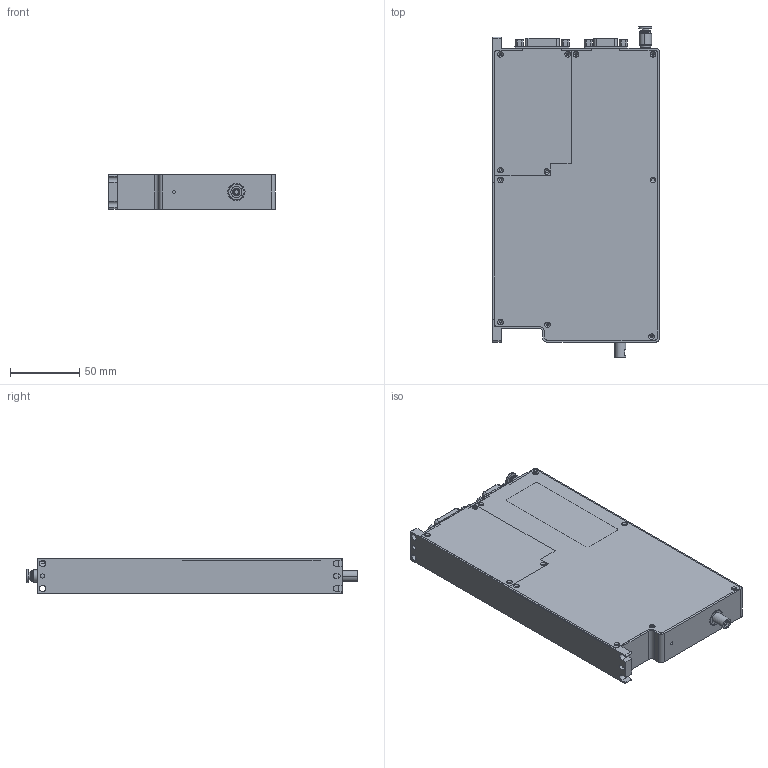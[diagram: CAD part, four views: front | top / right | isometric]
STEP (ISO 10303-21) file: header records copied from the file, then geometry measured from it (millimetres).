
FILE_DESCRIPTION((''),'2;1');
FILE_NAME('SDVZ-8-30-EC-000_ASM','2022-08-10T',('Administrator'),(''),'PRO/ENGINEER BY PARAMETRIC TECHNOLOGY CORPORATION, 2014320','PRO/ENGINEER BY PARAMETRIC TECHNOLOGY CORPORATION, 2014320','');
FILE_SCHEMA(('CONFIG_CONTROL_DESIGN'));
Length unit declared in the file: millimetre
Products named in the file (13): SDVZ-8-30-EC-007; PRODUCT_51593; SDVZ-8-30-EC-003; SDVZ-8-30-EC-008; PCB-____01_ASM; DB15-GT; DB9; SDVZ-8-30-EC-001; SDVZ-8-30-EC-010; POC4M5-S; PCB-____02_ASM; ASM0001_ASM; SDVZ-8-30-EC-000_ASM
Assembly tree (15 placements, depth 3):
  SDVZ-8-30-EC-000_ASM
    ASM0001_ASM
      SDVZ-8-30-EC-007
      PRODUCT_51593  x4
      SDVZ-8-30-EC-003
      SDVZ-8-30-EC-008
      PCB-____01_ASM
      DB15-GT
      DB9
      SDVZ-8-30-EC-001
      SDVZ-8-30-EC-010
      POC4M5-S
      PCB-____02_ASM
Bounding box: 120 x 238.6 x 25 mm (x, y, z)
Volume: 631137.8 mm3; surface area: 133152.1 mm2
Topology: 12 solids, 12 shells, 773 faces, 1827 edges, 1183 vertices
Faces by surface type: cylinder 379, plane 294, cone 82, torus 18
Entity records: 21730 total; most frequent: DIRECTION 4053, CARTESIAN_POINT 3764, ORIENTED_EDGE 3420, EDGE_CURVE 1710, AXIS2_PLACEMENT_3D 1599, VERTEX_POINT 1120, EDGE_LOOP 896, VECTOR 855
